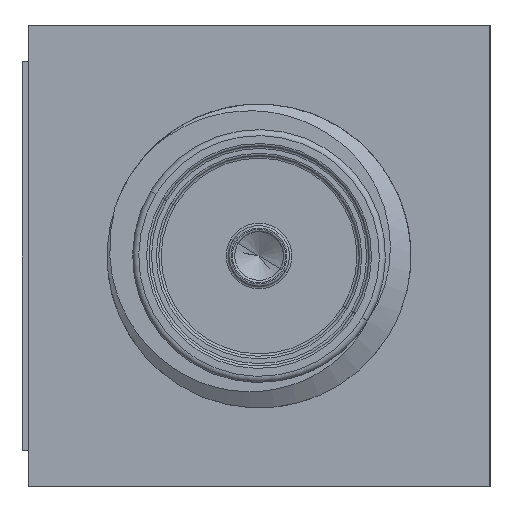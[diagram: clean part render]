
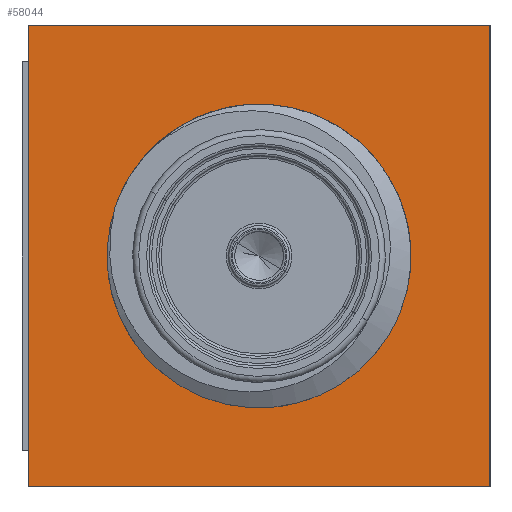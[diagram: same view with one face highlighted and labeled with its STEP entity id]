
A CAD part, left-side view. The second image highlights one B-rep face of the part: STEP entity #58044.
In plain terms, the highlighted planar face has unit normal (-1, 0, 0).
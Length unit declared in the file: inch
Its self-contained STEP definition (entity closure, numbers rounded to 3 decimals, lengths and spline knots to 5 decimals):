
#657 = CARTESIAN_POINT ( 'NONE',  ( -1.34035, 0.06739, -0.63654 ) ) ;
#3523 = ORIENTED_EDGE ( 'NONE', *, *, #21126, .F. ) ;
#4641 = ORIENTED_EDGE ( 'NONE', *, *, #58944, .T. ) ;
#5152 = AXIS2_PLACEMENT_3D ( 'NONE', #69420, #13023, #23265 ) ;
#5952 = DIRECTION ( 'NONE',  ( -1., 0., 0. ) ) ;
#9166 = CARTESIAN_POINT ( 'NONE',  ( -1.34035, -0.12261, -0.44654 ) ) ;
#9242 = EDGE_CURVE ( 'NONE', #72367, #69015, #23445, .T. ) ;
#9604 = ORIENTED_EDGE ( 'NONE', *, *, #66413, .T. ) ;
#11410 = DIRECTION ( 'NONE',  ( 0., 1., 0. ) ) ;
#12918 = DIRECTION ( 'NONE',  ( 0., 0., 1. ) ) ;
#13023 = DIRECTION ( 'NONE',  ( -1., 0., 0. ) ) ;
#13261 = EDGE_CURVE ( 'NONE', #59055, #36918, #25684, .T. ) ;
#16013 = AXIS2_PLACEMENT_3D ( 'NONE', #657, #5952, #46840 ) ;
#16673 = VERTEX_POINT ( 'NONE', #43574 ) ;
#17218 = FACE_BOUND ( 'NONE', #26568, .T. ) ;
#20837 = VERTEX_POINT ( 'NONE', #9166 ) ;
#21126 = EDGE_CURVE ( 'NONE', #36918, #59055, #28434, .T. ) ;
#23265 = DIRECTION ( 'NONE',  ( 0., 0., 1. ) ) ;
#23445 = LINE ( 'NONE', #23825, #52683 ) ;
#23825 = CARTESIAN_POINT ( 'NONE',  ( -1.34035, 0.25739, -0.44654 ) ) ;
#24240 = ORIENTED_EDGE ( 'NONE', *, *, #53339, .F. ) ;
#24512 = CARTESIAN_POINT ( 'NONE',  ( -1.34035, 0.25739, -0.44654 ) ) ;
#25684 = CIRCLE ( 'NONE', #16013, 0.099 ) ;
#26568 = EDGE_LOOP ( 'NONE', ( #3523, #39945 ) ) ;
#28434 = CIRCLE ( 'NONE', #38085, 0.099 ) ;
#29811 = EDGE_LOOP ( 'NONE', ( #50480, #24240, #4641, #9604 ) ) ;
#29860 = DIRECTION ( 'NONE',  ( 0., 0., 1. ) ) ;
#30326 = DIRECTION ( 'NONE',  ( -1., 0., 0. ) ) ;
#32386 = CARTESIAN_POINT ( 'NONE',  ( -1.34035, -0.12261, -0.44654 ) ) ;
#32513 = LINE ( 'NONE', #73747, #62212 ) ;
#35334 = PLANE ( 'NONE',  #5152 ) ;
#36731 = CARTESIAN_POINT ( 'NONE',  ( -1.34035, 0.06739, -0.63654 ) ) ;
#36918 = VERTEX_POINT ( 'NONE', #71231 ) ;
#38085 = AXIS2_PLACEMENT_3D ( 'NONE', #36731, #30326, #12918 ) ;
#39945 = ORIENTED_EDGE ( 'NONE', *, *, #13261, .F. ) ;
#42652 = VECTOR ( 'NONE', #49419, 39.37008 ) ;
#43574 = CARTESIAN_POINT ( 'NONE',  ( -1.34035, -0.12261, -0.82654 ) ) ;
#44247 = DIRECTION ( 'NONE',  ( 0., 1., 0. ) ) ;
#46840 = DIRECTION ( 'NONE',  ( 0., 0., 1. ) ) ;
#47669 = VECTOR ( 'NONE', #11410, 39.37008 ) ;
#49419 = DIRECTION ( 'NONE',  ( 0., 0., 1. ) ) ;
#50480 = ORIENTED_EDGE ( 'NONE', *, *, #9242, .F. ) ;
#52683 = VECTOR ( 'NONE', #29860, 39.37008 ) ;
#53339 = EDGE_CURVE ( 'NONE', #16673, #72367, #32513, .T. ) ;
#57481 = CARTESIAN_POINT ( 'NONE',  ( -1.34035, 0.25739, -0.82654 ) ) ;
#58044 = ADVANCED_FACE ( 'NONE', ( #17218, #63375 ), #35334, .T. ) ;
#58944 = EDGE_CURVE ( 'NONE', #16673, #20837, #61153, .T. ) ;
#59055 = VERTEX_POINT ( 'NONE', #67935 ) ;
#61153 = LINE ( 'NONE', #32386, #42652 ) ;
#62212 = VECTOR ( 'NONE', #44247, 39.37008 ) ;
#63269 = LINE ( 'NONE', #73874, #47669 ) ;
#63375 = FACE_OUTER_BOUND ( 'NONE', #29811, .T. ) ;
#66413 = EDGE_CURVE ( 'NONE', #20837, #69015, #63269, .T. ) ;
#67935 = CARTESIAN_POINT ( 'NONE',  ( -1.34035, 0.06739, -0.73554 ) ) ;
#69015 = VERTEX_POINT ( 'NONE', #24512 ) ;
#69420 = CARTESIAN_POINT ( 'NONE',  ( -1.34035, -0.12261, -0.44654 ) ) ;
#71231 = CARTESIAN_POINT ( 'NONE',  ( -1.34035, 0.06739, -0.53754 ) ) ;
#72367 = VERTEX_POINT ( 'NONE', #57481 ) ;
#73747 = CARTESIAN_POINT ( 'NONE',  ( -1.34035, -0.12261, -0.82654 ) ) ;
#73874 = CARTESIAN_POINT ( 'NONE',  ( -1.34035, -0.12261, -0.44654 ) ) ;
